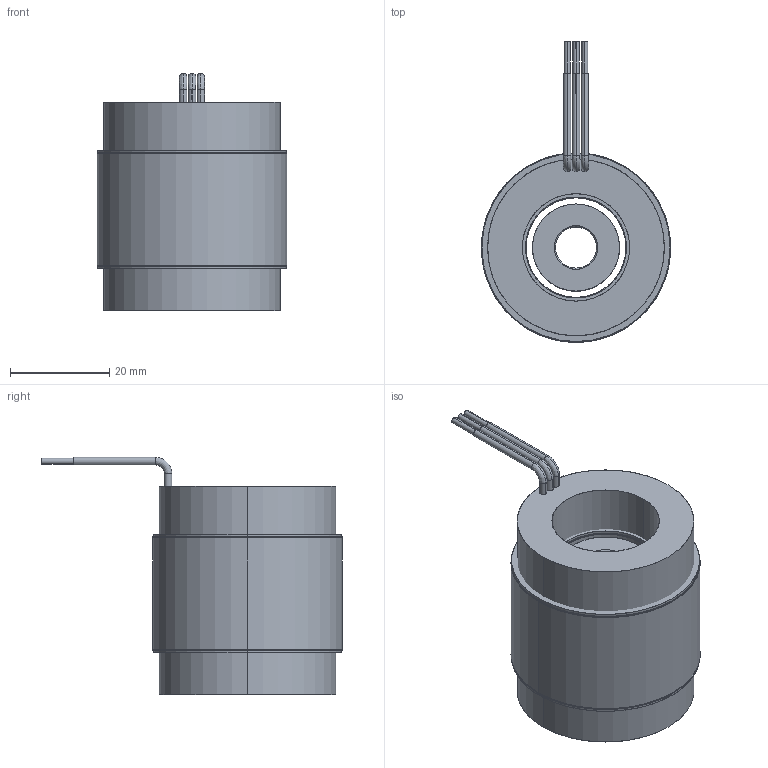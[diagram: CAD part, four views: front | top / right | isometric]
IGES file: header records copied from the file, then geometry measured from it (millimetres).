
Start section: SolidWorks IGES file using analytic representation for surfaces
Global section: file name: \\fs01.aveox.local\user documents\eng\My Documents\STANDARD STATOR ROTOR SETS\Standard rotor and stator set released\1.5 in stator diameter\6100250-02.IGS; native system: SolidWorks 2016; preprocessor: SolidWorks 2016; author: eng; date: 191111.083901; units: millimetre
Bounding box: 38.1 x 60.45 x 47.75 mm (x, y, z)
Surface area: 23910.7 mm2 (no closed solid volume)
Topology: 0 solids, 0 shells, 76 faces, 1696 edges, 1696 vertices
Faces by surface type: revolution 50, bspline 26
